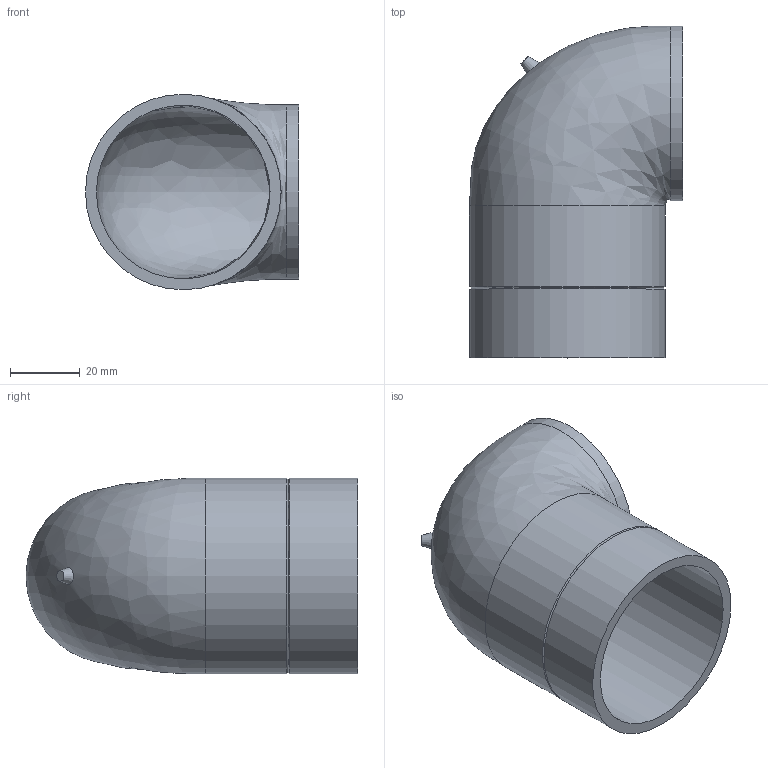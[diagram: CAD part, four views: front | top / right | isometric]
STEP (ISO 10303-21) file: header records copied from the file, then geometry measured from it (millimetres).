
FILE_DESCRIPTION(/* description */ (''),/* implementation_level */ '2;1');
FILE_NAME(/* name */ 'Z:\Geberit\Export\NewStep\363062.stp',/* time_stamp */ '2014-04-01T21:08:38+02:00',/* author */ ('nelson'),/* organization */ (''),/* preprocessor_version */ 'ST-DEVELOPER v15.2',/* originating_system */ 'Autodesk Inventor 2014',/* authorisation */ '');
FILE_SCHEMA (('AUTOMOTIVE_DESIGN { 1 0 10303 214 3 1 1 }'));
Length unit declared in the file: millimetre
Products named in the file (1): 363062
Bounding box: 61 x 95 x 56 mm (x, y, z)
Volume: 46793.9 mm3; surface area: 30833 mm2
Topology: 1 solids, 1 shells, 13 faces, 26 edges, 15 vertices
Faces by surface type: cylinder 5, cone 3, plane 3, bspline 2
Full cylindrical faces by diameter (mm): 43.7 x1, 49.7 x1, 50 x1, 56 x2
Entity records: 1036 total; most frequent: CARTESIAN_POINT 785, DIRECTION 48, ORIENTED_EDGE 34, AXIS2_PLACEMENT_3D 24, EDGE_LOOP 23, EDGE_CURVE 17, VERTEX_POINT 14, ADVANCED_FACE 13
